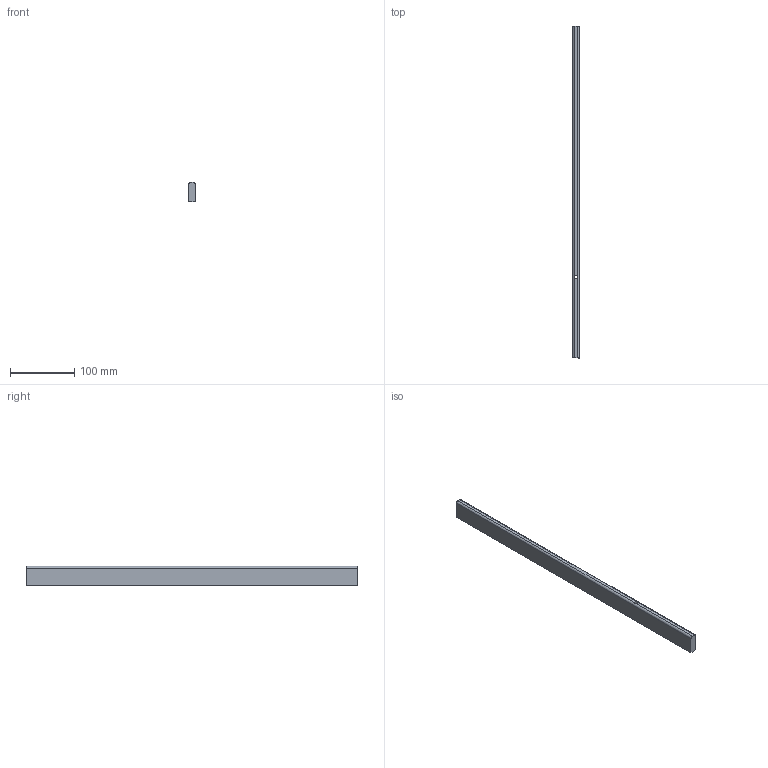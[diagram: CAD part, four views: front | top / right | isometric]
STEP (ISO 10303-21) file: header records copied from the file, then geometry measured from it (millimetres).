
FILE_DESCRIPTION (( 'STEP AP214' ), '1' );
FILE_NAME ('_Seitenreling_SP60702400_RL517,1.step', '2010-09-06T14:52:04', ( 'grass' ), ( '' ), 'SwSTEP 2.0', 'SolidWorks 2010', '' );
FILE_SCHEMA (( 'AUTOMOTIVE_DESIGN' ));
Length unit declared in the file: millimetre
Products named in the file (1): _Seitenreling_SP60702400_RL517,1
Bounding box: 10.5 x 517.1 x 30 mm (x, y, z)
Volume: 159970 mm3; surface area: 41714.1 mm2
Topology: 1 solids, 1 shells, 14 faces, 34 edges, 22 vertices
Faces by surface type: plane 8, cylinder 6
Entity records: 454 total; most frequent: DIRECTION 78, CARTESIAN_POINT 71, ORIENTED_EDGE 68, EDGE_CURVE 34, AXIS2_PLACEMENT_3D 29, VERTEX_POINT 22, LINE 20, VECTOR 20
